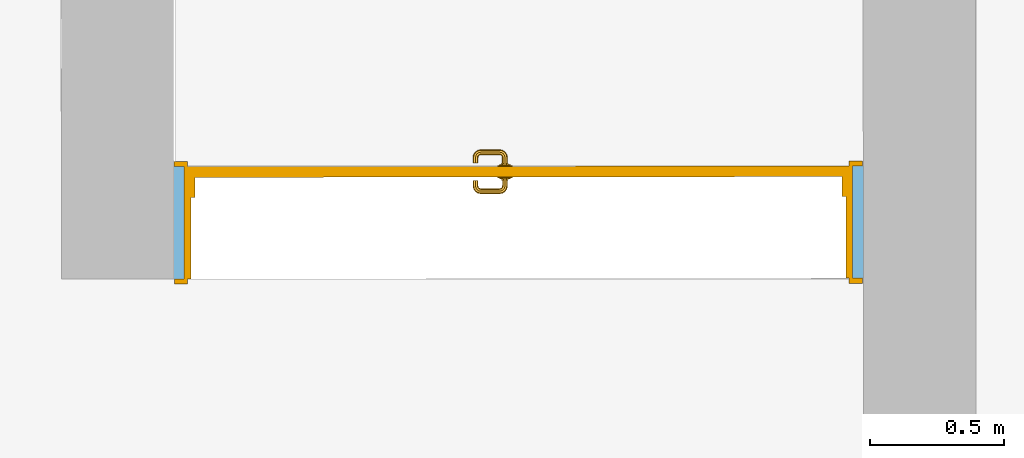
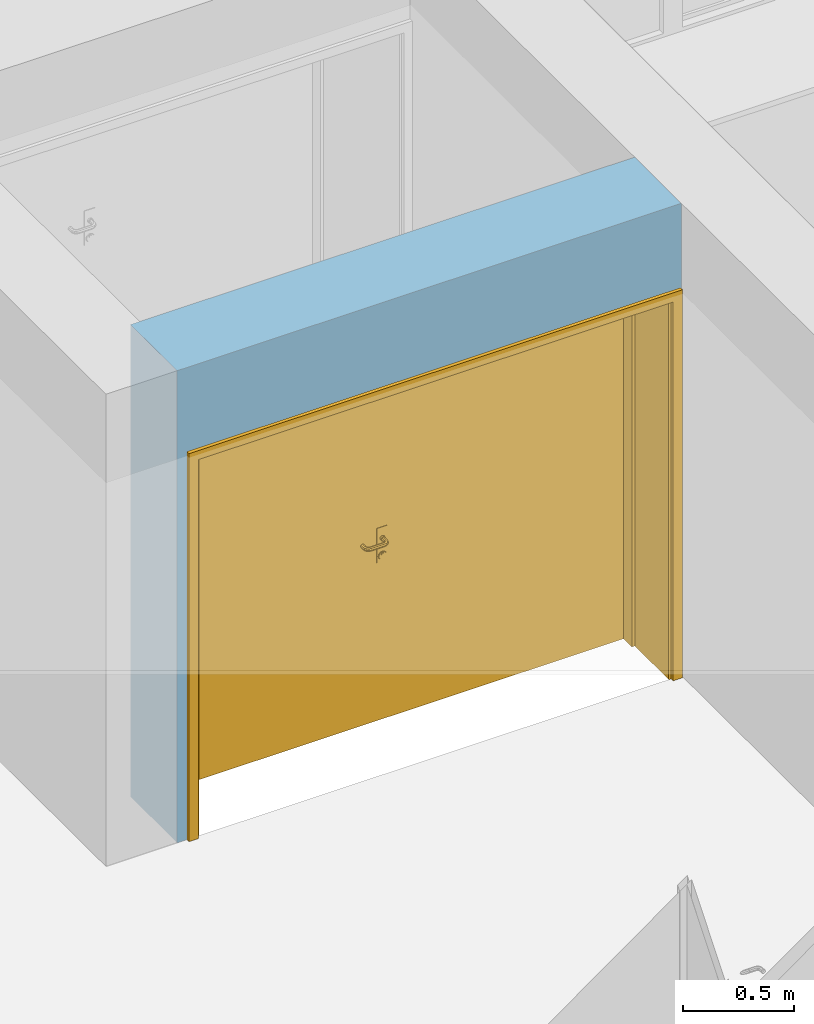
# One storey, part 44 of 127: 1 door, 1 opening, plus 1 element that does not belong to this part.
"""IFC2X3 building model written with IfcOpenShell, lengths in millimetres."""

from ifc_helpers import new_model, entity, si_unit, converted_unit, derived_unit, money_unit, direction, frame, origin_with_axes, origin_2d_with_axis, place, context, subcontext, project, spatial, polyline, rectangle, outline, extrude, open_shell, faceted_brep, surface_model, material, layer, layer_set, layer_usage, type_object, element, fill, save


model = new_model("IFC2X3")

# Units and contexts
model_context = context("Model", 3, precision=1e-05, world=origin_with_axes(), true_north=direction((0.0, 1.0)))
body_context = subcontext(model_context, "Body", "Model", "MODEL_VIEW")
ifc_project = project(units=[si_unit("LENGTHUNIT", "METRE", prefix="MILLI"), si_unit("AREAUNIT", "SQUARE_METRE"), si_unit("VOLUMEUNIT", "CUBIC_METRE"), converted_unit("PLANEANGLEUNIT", "DEGREE", entity("IfcPlaneAngleMeasure", 0.0174532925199), si_unit("PLANEANGLEUNIT", "RADIAN"), dimensions=[0, 0, 0, 0, 0, 0, 0]), si_unit("SOLIDANGLEUNIT", "STERADIAN"), money_unit("EUR"), converted_unit("TIMEUNIT", "Year", entity("IfcTimeMeasure", 31556926.0), si_unit("TIMEUNIT", "SECOND"), dimensions=[0, 0, 1, 0, 0, 0, 0]), si_unit("MASSUNIT", "GRAM", prefix="KILO"), si_unit("THERMODYNAMICTEMPERATUREUNIT", "DEGREE_CELSIUS"), si_unit("LUMINOUSINTENSITYUNIT", "LUMEN"), si_unit("ENERGYUNIT", "JOULE", prefix="MEGA"), derived_unit("THERMALCONDUCTANCEUNIT", [(si_unit("POWERUNIT", "WATT"), 1), (si_unit("LENGTHUNIT", "METRE"), -1), (si_unit("THERMODYNAMICTEMPERATUREUNIT", "KELVIN"), -1)]), derived_unit("SPECIFICHEATCAPACITYUNIT", [(si_unit("ENERGYUNIT", "JOULE"), 1), (si_unit("MASSUNIT", "GRAM", prefix="KILO"), -1), (si_unit("THERMODYNAMICTEMPERATUREUNIT", "KELVIN"), -1)]), derived_unit("MASSDENSITYUNIT", [(si_unit("MASSUNIT", "GRAM", prefix="KILO"), 1), (si_unit("VOLUMEUNIT", "CUBIC_METRE"), -1)])], contexts=[model_context])

# Site, building, storey
site_placement = place(None, origin_with_axes())
site = spatial("IfcSite", under=ifc_project, at=site_placement, Name="Site", CompositionType="ELEMENT")
building_placement = place(site_placement, origin_with_axes())
building = spatial("IfcBuilding", under=site, at=building_placement, Name="Building", CompositionType="ELEMENT")
storey_placement = place(building_placement, origin_with_axes())
storey = spatial("IfcBuildingStorey", under=building, at=storey_placement, Name="1 KORRUS", CompositionType="ELEMENT", Elevation=0.0)

# Wall, opening, door
ifc_material = material(Name="Kivi -Ol.Olev Konstruktsioon")
ifc_layer = layer(ifc_material, 420.0, ventilated="UNKNOWN")
ifc_layer_set = layer_set([ifc_layer], Name="ol.olev ss 420")
ifc_layer_usage = layer_usage(ifc_layer_set, "AXIS2", "POSITIVE", 0.0)
wall_type = type_object("IfcWallType", Name="SW - 036", PredefinedType="NOTDEFINED")
wall_placement = place(storey_placement, frame((40108.3594273, 44172.3026647, 0.0), z_axis=(0.0, 0.0, 1.0), x_axis=(0.99999925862, 0.00121768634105, 0.0)))
wall = element("IfcWallStandardCase", 1, at=wall_placement, inside=storey, type_object=wall_type, material=ifc_layer_usage, Name="ol.olev ss 420", context=body_context, shape_type="SweptSolid", body=[
    extrude(outline(polyline([(0.0, 0.0), (2628.56954198, 9.09494701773e-10), (2628.56954197, 420.0), (0.0, 419.999999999), (0.0, 0.0)])), origin_with_axes(), (0.0, 0.0, 1.0), 2600.0),
])
opening_placement = place(wall_placement, frame((1338.03449445, 9.09494701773e-10, 0.0), z_axis=(0.0, 0.0, 1.0), x_axis=(1.0, 0.0, 0.0)))
opening = element("IfcOpeningElement", 2, at=opening_placement, cuts=wall, Name="Siseuks * Double Door 22", context=body_context, shape_type="SweptSolid", body=[
    extrude(rectangle(XDim=2500.0, YDim=2100.0, at=origin_2d_with_axis()), frame((-1.13686837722e-10, -420.0, 1050.0), z_axis=(0.0, -1.0, 0.0), x_axis=(-1.0, 0.0, 0.0)), (0.0, 0.0, -1.0), 1260.0),
    extrude(rectangle(XDim=2574.0, YDim=2137.0, at=origin_2d_with_axis()), frame((0.0, 0.0, 1068.5), z_axis=(0.0, -1.0, 0.0), x_axis=(-1.0, 0.0, 0.0)), (0.0, 0.0, 1.0), 420.0),
    extrude(rectangle(XDim=2574.0, YDim=2137.0, at=origin_2d_with_axis()), frame((-2.27373675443e-10, 419.999999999, 1068.5), z_axis=(0.0, 1.0, 0.0), x_axis=(-1.0, 0.0, 0.0)), (0.0, 0.0, 1.0), 420.0),
])
door_style = type_object("IfcDoorStyle", Name="SU-B107   2\xa0500×2\xa0100", ConstructionType="NOTDEFINED", OperationType="DOUBLE_DOOR_SINGLE_SWING", ParameterTakesPrecedence=False, Sizeable=False)
door_placement = place(opening_placement, frame((-1250.0, -1.81898940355e-09, 0.0), z_axis=(0.0, 0.0, 1.0), x_axis=(1.0, 0.0, 0.0)))
door = element("IfcDoor", 3, at=door_placement, inside=storey, type_object=door_style, Name="Siseuks * Double Door 22", OverallHeight=2100.0, OverallWidth=2500.0, context=body_context, shape_type="SurfaceModel", body=[
    faceted_brep([(2500.0, 304.999999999, 0.0), (2500.0, 0.0, 0.0), (2475.0, 0.0, 0.0), (2475.0, 304.999999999, 0.0), (2500.0, 304.999999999, 2100.0), (2500.0, 0.0, 2100.0), (2475.0, 0.0, 2075.0), (2475.0, 304.999999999, 2075.0)], [[[0, 1, 2, 3]], [[4, 5, 1, 0]], [[1, 5, 6, 2]], [[3, 2, 6, 7]], [[0, 3, 7, 4]], [[7, 6, 5, 4]]]),
    faceted_brep([(-1.13686837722e-10, 305.0, 2100.0), (0.0, 0.0, 2100.0), (24.9999999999, 0.0, 2075.0), (24.9999999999, 304.999999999, 2075.0), (-1.13686837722e-10, 305.0, 0.0), (0.0, 0.0, 0.0), (24.9999999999, 0.0, 0.0), (24.9999999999, 304.999999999, 0.0)], [[[0, 1, 2, 3]], [[4, 5, 1, 0]], [[1, 5, 6, 2]], [[3, 2, 6, 7]], [[0, 3, 7, 4]], [[7, 6, 5, 4]]]),
    faceted_brep([(2475.0, 304.999999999, 2075.0), (2475.0, 0.0, 2075.0), (24.9999999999, 0.0, 2075.0), (24.9999999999, 304.999999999, 2075.0), (2500.0, 304.999999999, 2100.0), (2500.0, 0.0, 2100.0), (0.0, 0.0, 2100.0), (-1.13686837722e-10, 305.0, 2100.0)], [[[0, 1, 2, 3]], [[4, 5, 1, 0]], [[1, 5, 6, 2]], [[3, 2, 6, 7]], [[0, 3, 7, 4]], [[7, 6, 5, 4]]]),
    faceted_brep([(2537.0, -19.0000000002, 0.0), (2487.0, -18.9999999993, 0.0), (2487.0, 9.09494701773e-10, 0.0), (2537.0, 0.0, 0.0), (2537.0, -19.0000000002, 2137.0), (2487.0, -18.9999999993, 2087.0), (2487.0, 9.09494701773e-10, 2087.0), (2537.0, 0.0, 2137.0)], [[[0, 1, 2, 3]], [[0, 4, 5, 1]], [[1, 5, 6, 2]], [[3, 2, 6, 7]], [[4, 0, 3, 7]], [[5, 4, 7, 6]]]),
    faceted_brep([(-37.0, -19.0000000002, 2137.0), (12.9999999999, -19.0000000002, 2087.0), (12.9999999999, 0.0, 2087.0), (-37.0, 0.0, 2137.0), (-37.0, -19.0000000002, 0.0), (12.9999999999, -19.0000000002, 0.0), (12.9999999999, 0.0, 0.0), (-37.0, 0.0, 0.0)], [[[0, 1, 2, 3]], [[0, 4, 5, 1]], [[1, 5, 6, 2]], [[3, 2, 6, 7]], [[4, 0, 3, 7]], [[5, 4, 7, 6]]]),
    faceted_brep([(2537.0, -19.0000000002, 2137.0), (2487.0, -18.9999999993, 2087.0), (2487.0, 9.09494701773e-10, 2087.0), (2537.0, 0.0, 2137.0), (-37.0, -19.0000000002, 2137.0), (12.9999999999, -19.0000000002, 2087.0), (12.9999999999, 0.0, 2087.0), (-37.0, 0.0, 2137.0)], [[[0, 1, 2, 3]], [[0, 4, 5, 1]], [[1, 5, 6, 2]], [[3, 2, 6, 7]], [[4, 0, 3, 7]], [[5, 4, 7, 6]]]),
    faceted_brep([(2537.0, 439.0, 0.0), (2537.0, 420.0, 0.0), (2487.0, 420.0, 0.0), (2487.0, 439.0, 0.0), (2537.0, 439.0, 2137.0), (2537.0, 420.0, 2137.0), (2487.0, 420.0, 2087.0), (2487.0, 439.0, 2087.0)], [[[0, 1, 2, 3]], [[4, 5, 1, 0]], [[1, 5, 6, 2]], [[3, 2, 6, 7]], [[0, 3, 7, 4]], [[7, 6, 5, 4]]]),
    faceted_brep([(-37.0, 439.0, 2137.0), (-37.0, 420.000000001, 2137.0), (12.9999999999, 420.0, 2087.0), (12.9999999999, 439.0, 2087.0), (-37.0, 439.0, 0.0), (-37.0, 420.000000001, 0.0), (12.9999999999, 420.0, 0.0), (12.9999999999, 439.0, 0.0)], [[[0, 1, 2, 3]], [[4, 5, 1, 0]], [[1, 5, 6, 2]], [[3, 2, 6, 7]], [[0, 3, 7, 4]], [[7, 6, 5, 4]]]),
    faceted_brep([(2537.0, 439.0, 2137.0), (2537.0, 420.0, 2137.0), (2487.0, 420.0, 2087.0), (2487.0, 439.0, 2087.0), (-37.0, 439.0, 2137.0), (-37.0, 420.000000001, 2137.0), (12.9999999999, 420.0, 2087.0), (12.9999999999, 439.0, 2087.0)], [[[0, 1, 2, 3]], [[4, 5, 1, 0]], [[1, 5, 6, 2]], [[3, 2, 6, 7]], [[0, 3, 7, 4]], [[7, 6, 5, 4]]]),
    faceted_brep([(2460.0, 379.999999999, 0.0), (2460.0, 305.0, 0.0), (2460.0, 305.0, 2060.0), (2460.0, 379.999999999, 2060.0), (2472.0, 380.000000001, 0.0), (2472.0, 420.0, 0.0), (2500.0, 420.000000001, 0.0), (2500.0, 304.999999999, 0.0), (2500.0, 304.999999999, 2060.0), (2472.0, 380.000000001, 2060.0), (2500.0, 420.000000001, 2060.0), (2472.0, 420.0, 2060.0)], [[[0, 1, 2, 3]], [[4, 5, 6, 7, 1, 0]], [[1, 7, 8, 2]], [[9, 3, 2, 8, 10, 11]], [[9, 4, 0, 3]], [[11, 5, 4, 9]], [[11, 10, 6, 5]], [[6, 10, 8, 7]]]),
    faceted_brep([(27.9999999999, 380.0, 2060.0), (27.9999999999, 419.999999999, 2060.0), (-1.13686837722e-10, 420.0, 2060.0), (-1.13686837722e-10, 305.0, 2060.0), (40.0, 305.0, 2060.0), (40.0, 380.0, 2060.0), (27.9999999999, 380.0, 0.0), (27.9999999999, 419.999999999, 0.0), (-1.13686837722e-10, 420.0, 0.0), (-1.13686837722e-10, 305.0, 0.0), (40.0, 305.0, 0.0), (40.0, 380.0, 0.0)], [[[0, 1, 2, 3, 4, 5]], [[0, 6, 7, 1]], [[7, 8, 2, 1]], [[2, 8, 9, 3]], [[3, 9, 10, 4]], [[5, 4, 10, 11]], [[5, 11, 6, 0]], [[6, 11, 10, 9, 8, 7]]]),
    faceted_brep([(2472.0, 420.0, 2072.0), (27.9999999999, 419.999999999, 2072.0), (27.9999999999, 419.999999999, 2060.0), (-1.13686837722e-10, 420.0, 2060.0), (-1.13686837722e-10, 420.0, 2100.0), (2500.0, 420.000000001, 2100.0), (2500.0, 420.000000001, 2060.0), (2472.0, 420.0, 2060.0), (2472.0, 380.000000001, 2072.0), (27.9999999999, 380.0, 2072.0), (27.9999999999, 380.0, 2060.0), (40.0, 380.0, 2060.0), (40.0, 305.0, 2060.0), (-1.13686837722e-10, 305.0, 2060.0), (-1.13686837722e-10, 305.0, 2100.0), (2500.0, 304.999999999, 2100.0), (2500.0, 304.999999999, 2060.0), (2472.0, 380.000000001, 2060.0), (2460.0, 305.0, 2060.0), (2460.0, 379.999999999, 2060.0)], [[[0, 1, 2, 3, 4, 5, 6, 7]], [[0, 8, 9, 1]], [[1, 9, 10, 2]], [[10, 11, 12, 13, 3, 2]], [[4, 3, 13, 14]], [[5, 4, 14, 15]], [[6, 5, 15, 16]], [[17, 7, 6, 16, 18, 19]], [[7, 17, 8, 0]], [[10, 9, 8, 17, 19, 11]], [[19, 18, 12, 11]], [[12, 18, 16, 15, 14, 13]]]),
    faceted_brep([(1228.5, 380.0, 1060.0), (1171.5, 379.999999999, 1060.0), (1171.5, 377.0, 1060.0), (1228.5, 376.999999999, 1060.0), (1228.5, 380.0, 870.0), (1171.5, 379.999999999, 870.0), (1171.5, 377.0, 870.0), (1228.5, 376.999999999, 870.0)], [[[0, 1, 2, 3]], [[0, 4, 5, 1]], [[1, 5, 6, 2]], [[3, 2, 6, 7]], [[4, 0, 3, 7]], [[5, 4, 7, 6]]]),
    surface_model("IfcShellBasedSurfaceModel", [(1190.0, 367.0, 1000.0), (1192.92893219, 367.0, 992.928932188), (1192.92893219, 347.696439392, 992.928932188), (1190.0, 347.984914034, 1000.0), (1200.0, 367.0, 990.0), (1200.0, 347.0, 990.0), (1191.81679042, 342.105325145, 992.928932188), (1189.05779662, 343.248137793, 1000.0), (1192.92893219, 367.0, 1007.07106781), (1192.92893219, 347.696439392, 1007.07106781), (1207.07106781, 367.0, 992.928932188), (1207.07106781, 346.303560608, 992.928932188), (1198.47759065, 339.346331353, 990.0), (1189.04417983, 337.955820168, 992.928932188), (1186.9325374, 340.067462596, 1000.0), (1191.81679042, 342.105325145, 1007.07106781), (1200.0, 367.0, 1010.0), (1200.0, 347.0, 1010.0), (1210.0, 367.0, 1000.0), (1210.0, 346.015085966, 1000.0), (1205.13839088, 336.587337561, 992.928932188), (1194.14213562, 332.857864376, 990.0), (1184.89467485, 335.183209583, 992.928932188), (1183.75186221, 337.942203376, 1000.0), (1189.04417983, 337.955820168, 1007.07106781), (1198.47759065, 339.346331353, 1010.0), (1207.07106781, 367.0, 1007.07106781), (1207.07106781, 346.303560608, 1007.07106781), (1207.89738468, 335.444524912, 1000.0), (1199.24009141, 327.759908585, 992.928932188), (1187.65366865, 328.52240935, 990.0), (1179.30356061, 334.071067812, 992.928932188), (1179.01508597, 337.0, 1000.0), (1184.89467485, 335.183209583, 1007.07106781), (1194.14213562, 332.857864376, 1010.0), (1205.13839088, 336.587337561, 1007.07106781), (1201.35173384, 325.648266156, 1000.0), (1190.41266244, 321.861609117, 992.928932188), (1180.0, 327.0, 990.0), (1110.69643939, 334.071067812, 992.928932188), (1110.98491403, 337.0, 1000.0), (1179.30356061, 334.071067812, 1007.07106781), (1187.65366865, 328.52240935, 1010.0), (1199.24009141, 327.759908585, 1007.07106781), (1191.55547509, 319.102615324, 1000.0), (1180.69643939, 319.928932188, 992.928932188), (1110.0, 327.000000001, 990.0), (1105.10532515, 335.183209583, 992.928932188), (1106.24813779, 337.942203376, 1000.0), (1110.69643939, 334.071067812, 1007.07106781), (1180.0, 327.0, 1010.0), (1190.41266244, 321.861609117, 1007.07106781), (1180.98491403, 317.0, 1000.0), (1109.30356061, 319.928932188, 992.928932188), (1102.34633135, 328.52240935, 990.0), (1100.95582017, 337.955820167, 992.928932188), (1103.0674626, 340.067462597, 1000.0), (1105.10532515, 335.183209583, 1007.07106781), (1110.0, 327.000000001, 1010.0), (1180.69643939, 319.928932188, 1007.07106781), (1109.01508597, 317.0, 1000.0), (1099.58733756, 321.861609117, 992.928932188), (1095.85786438, 332.857864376, 990.0), (1098.18320958, 342.105325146, 992.928932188), (1100.94220338, 343.248137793, 1000.0), (1100.95582017, 337.955820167, 1007.07106781), (1102.34633135, 328.52240935, 1010.0), (1109.30356061, 319.928932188, 1007.07106781), (1098.44452491, 319.102615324, 1000.0), (1090.75990859, 327.759908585, 992.928932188), (1091.52240935, 339.346331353, 990.0), (1097.07106781, 347.696439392, 992.928932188), (1100.0, 347.984914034, 1000.0), (1098.18320958, 342.105325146, 1007.07106781), (1095.85786438, 332.857864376, 1010.0), (1099.58733756, 321.861609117, 1007.07106781), (1088.64826616, 325.648266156, 1000.0), (1084.86160912, 336.58733756, 992.928932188), (1090.0, 347.0, 990.0), (1097.07106781, 367.0, 992.928932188), (1100.0, 367.0, 1000.0), (1097.07106781, 347.696439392, 1007.07106781), (1091.52240935, 339.346331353, 1010.0), (1090.75990859, 327.759908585, 1007.07106781), (1082.10261532, 335.444524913, 1000.0), (1082.92893219, 346.303560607, 992.928932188), (1090.0, 367.0, 990.0), (1082.92893219, 367.0, 992.928932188), (1080.0, 367.0, 1000.0), (1082.92893219, 367.0, 1007.07106781), (1090.0, 367.0, 1010.0), (1097.07106781, 367.0, 1007.07106781), (1090.0, 347.0, 1010.0), (1084.86160912, 336.58733756, 1007.07106781), (1080.0, 346.015085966, 1000.0), (1082.92893219, 346.303560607, 1007.07106781)], [open_shell([[[0, 1, 2, 3]], [[1, 4, 5, 2]], [[3, 2, 6, 7]], [[8, 0, 3, 9]], [[4, 10, 11, 5]], [[2, 5, 12, 6]], [[7, 6, 13, 14]], [[9, 3, 7, 15]], [[16, 8, 9, 17]], [[10, 18, 19, 11]], [[5, 11, 20, 12]], [[6, 12, 21, 13]], [[14, 13, 22, 23]], [[15, 7, 14, 24]], [[17, 9, 15, 25]], [[26, 16, 17, 27]], [[18, 26, 27, 19]], [[11, 19, 28, 20]], [[12, 20, 29, 21]], [[13, 21, 30, 22]], [[23, 22, 31, 32]], [[24, 14, 23, 33]], [[25, 15, 24, 34]], [[27, 17, 25, 35]], [[19, 27, 35, 28]], [[20, 28, 36, 29]], [[21, 29, 37, 30]], [[22, 30, 38, 31]], [[32, 31, 39, 40]], [[33, 23, 32, 41]], [[34, 24, 33, 42]], [[35, 25, 34, 43]], [[28, 35, 43, 36]], [[29, 36, 44, 37]], [[30, 37, 45, 38]], [[31, 38, 46, 39]], [[40, 39, 47, 48]], [[41, 32, 40, 49]], [[42, 33, 41, 50]], [[43, 34, 42, 51]], [[36, 43, 51, 44]], [[37, 44, 52, 45]], [[38, 45, 53, 46]], [[39, 46, 54, 47]], [[48, 47, 55, 56]], [[49, 40, 48, 57]], [[50, 41, 49, 58]], [[51, 42, 50, 59]], [[44, 51, 59, 52]], [[45, 52, 60, 53]], [[46, 53, 61, 54]], [[47, 54, 62, 55]], [[56, 55, 63, 64]], [[57, 48, 56, 65]], [[58, 49, 57, 66]], [[59, 50, 58, 67]], [[52, 59, 67, 60]], [[53, 60, 68, 61]], [[54, 61, 69, 62]], [[55, 62, 70, 63]], [[64, 63, 71, 72]], [[65, 56, 64, 73]], [[66, 57, 65, 74]], [[67, 58, 66, 75]], [[60, 67, 75, 68]], [[61, 68, 76, 69]], [[62, 69, 77, 70]], [[63, 70, 78, 71]], [[72, 71, 79, 80]], [[73, 64, 72, 81]], [[74, 65, 73, 82]], [[75, 66, 74, 83]], [[68, 75, 83, 76]], [[69, 76, 84, 77]], [[70, 77, 85, 78]], [[71, 78, 86, 79]], [[80, 79, 86, 87, 88, 89, 90, 91]], [[81, 72, 80, 91]], [[82, 73, 81, 92]], [[83, 74, 82, 93]], [[76, 83, 93, 84]], [[77, 84, 94, 85]], [[78, 85, 87, 86]], [[85, 94, 88, 87]], [[94, 95, 89, 88]], [[95, 92, 90, 89]], [[92, 81, 91, 90]], [[93, 82, 92, 95]], [[84, 93, 95, 94]]])]),
    faceted_brep([(1189.60769515, 366.999999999, 994.0), (1188.0, 367.0, 1000.0), (1187.0, 376.999999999, 1000.0), (1188.74166975, 376.999999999, 993.5), (1194.0, 367.0, 989.607695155), (1200.0, 367.0, 988.0), (1206.0, 366.999999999, 989.607695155), (1210.39230485, 367.0, 994.0), (1212.0, 367.0, 1000.0), (1210.39230485, 367.0, 1006.0), (1206.0, 366.999999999, 1010.39230485), (1200.0, 367.0, 1012.0), (1194.0, 367.0, 1010.39230485), (1189.60769515, 366.999999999, 1006.0), (1188.74166975, 376.999999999, 1006.5), (1193.5, 377.0, 1011.25833025), (1200.0, 377.0, 1013.0), (1206.5, 377.0, 1011.25833025), (1211.25833025, 376.999999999, 1006.5), (1213.0, 377.0, 1000.0), (1211.25833025, 376.999999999, 993.5), (1206.5, 377.0, 988.741669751), (1200.0, 377.0, 987.0), (1193.5, 377.0, 988.741669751)], [[[0, 1, 2, 3]], [[1, 0, 4, 5, 6, 7, 8, 9, 10, 11, 12, 13]], [[1, 13, 14, 2]], [[2, 14, 15, 16, 17, 18, 19, 20, 21, 22, 23, 3]], [[4, 0, 3, 23]], [[5, 4, 23, 22]], [[6, 5, 22, 21]], [[7, 6, 21, 20]], [[8, 7, 20, 19]], [[9, 8, 19, 18]], [[10, 9, 18, 17]], [[11, 10, 17, 16]], [[12, 11, 16, 15]], [[13, 12, 15, 14]]]),
    faceted_brep([(1182.67949192, 373.0, 895.0), (1180.0, 373.000000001, 905.0), (1178.0, 376.999999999, 905.0), (1180.94744112, 376.999999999, 894.0), (1190.0, 373.0, 887.679491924), (1200.0, 373.0, 885.0), (1210.0, 373.0, 887.679491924), (1217.32050808, 373.000000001, 895.0), (1220.0, 373.0, 905.0), (1217.32050808, 373.000000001, 915.0), (1210.0, 373.0, 922.320508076), (1200.0, 373.0, 925.0), (1190.0, 373.0, 922.320508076), (1182.67949192, 373.0, 915.0), (1180.94744112, 376.999999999, 916.0), (1189.0, 377.000000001, 924.052558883), (1200.0, 377.0, 927.0), (1211.0, 377.0, 924.052558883), (1219.05255888, 377.0, 916.0), (1222.0, 377.0, 905.0), (1219.05255888, 377.0, 894.0), (1211.0, 377.0, 885.947441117), (1200.0, 377.0, 883.0), (1189.0, 377.000000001, 885.947441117)], [[[0, 1, 2, 3]], [[1, 0, 4, 5, 6, 7, 8, 9, 10, 11, 12, 13]], [[1, 13, 14, 2]], [[2, 14, 15, 16, 17, 18, 19, 20, 21, 22, 23, 3]], [[4, 0, 3, 23]], [[5, 4, 23, 22]], [[6, 5, 22, 21]], [[7, 6, 21, 20]], [[8, 7, 20, 19]], [[9, 8, 19, 18]], [[10, 9, 18, 17]], [[11, 10, 17, 16]], [[12, 11, 16, 15]], [[13, 12, 15, 14]]]),
    faceted_brep([(1195.05025253, 371.0, 909.050252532), (1193.0, 370.999999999, 914.0), (1192.0, 373.0, 914.0), (1194.34314575, 373.000000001, 908.343145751), (1200.0, 371.0, 907.0), (1204.94974747, 371.0, 909.050252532), (1207.0, 371.0, 914.0), (1204.94974747, 371.0, 918.949747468), (1200.0, 371.0, 921.0), (1195.05025253, 371.0, 918.949747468), (1194.34314575, 373.000000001, 919.656854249), (1200.0, 373.0, 922.0), (1205.65685425, 373.000000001, 919.656854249), (1208.0, 373.000000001, 914.0), (1205.65685425, 373.000000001, 908.343145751), (1200.0, 373.0, 906.0)], [[[0, 1, 2, 3]], [[1, 0, 4, 5, 6, 7, 8, 9]], [[1, 9, 10, 2]], [[2, 10, 11, 12, 13, 14, 15, 3]], [[4, 0, 3, 15]], [[5, 4, 15, 14]], [[6, 5, 14, 13]], [[7, 6, 13, 12]], [[8, 7, 12, 11]], [[9, 8, 11, 10]]]),
    faceted_brep([(1228.5, 420.000000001, 1060.0), (1228.5, 423.000000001, 1060.0), (1171.5, 423.000000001, 1060.0), (1171.5, 420.0, 1060.0), (1228.5, 420.000000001, 870.0), (1228.5, 423.000000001, 870.0), (1171.5, 423.000000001, 870.0), (1171.5, 420.0, 870.0)], [[[0, 1, 2, 3]], [[4, 5, 1, 0]], [[1, 5, 6, 2]], [[3, 2, 6, 7]], [[0, 3, 7, 4]], [[7, 6, 5, 4]]]),
    surface_model("IfcShellBasedSurfaceModel", [(1190.0, 433.000000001, 1000.0), (1190.0, 452.015085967, 1000.0), (1192.92893219, 452.303560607, 992.928932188), (1192.92893219, 433.000000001, 992.928932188), (1192.92893219, 433.000000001, 1007.07106781), (1192.92893219, 452.303560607, 1007.07106781), (1189.05779662, 456.751862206, 1000.0), (1191.81679042, 457.894674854, 992.928932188), (1200.0, 453.0, 990.0), (1200.0, 433.000000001, 990.0), (1200.0, 433.000000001, 1010.0), (1200.0, 453.0, 1010.0), (1191.81679042, 457.894674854, 1007.07106781), (1186.9325374, 459.932537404, 1000.0), (1189.04417983, 462.044179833, 992.928932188), (1198.47759065, 460.653668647, 990.0), (1207.07106781, 453.696439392, 992.928932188), (1207.07106781, 433.0, 992.928932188), (1207.07106781, 433.0, 1007.07106781), (1207.07106781, 453.696439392, 1007.07106781), (1198.47759065, 460.653668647, 1010.0), (1189.04417983, 462.044179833, 1007.07106781), (1183.75186221, 462.057796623, 1000.0), (1184.89467485, 464.816790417, 992.928932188), (1194.14213562, 467.142135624, 990.0), (1205.13839088, 463.412662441, 992.928932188), (1210.0, 453.984914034, 1000.0), (1210.0, 433.0, 1000.0), (1205.13839088, 463.412662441, 1007.07106781), (1194.14213562, 467.142135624, 1010.0), (1184.89467485, 464.816790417, 1007.07106781), (1179.01508597, 463.0, 1000.0), (1179.30356061, 465.928932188, 992.928932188), (1187.65366865, 471.47759065, 990.0), (1199.24009141, 472.240091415, 992.928932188), (1207.89738468, 464.555475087, 1000.0), (1199.24009141, 472.240091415, 1007.07106781), (1187.65366865, 471.47759065, 1010.0), (1179.30356061, 465.928932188, 1007.07106781), (1110.98491403, 463.000000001, 1000.0), (1110.69643939, 465.928932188, 992.928932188), (1180.0, 472.999999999, 990.0), (1190.41266244, 478.138390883, 992.928932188), (1201.35173384, 474.351733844, 1000.0), (1190.41266244, 478.138390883, 1007.07106781), (1180.0, 472.999999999, 1010.0), (1110.69643939, 465.928932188, 1007.07106781), (1106.24813779, 462.057796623, 1000.0), (1105.10532515, 464.816790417, 992.928932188), (1110.0, 473.0, 990.0), (1180.69643939, 480.071067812, 992.928932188), (1191.55547509, 480.897384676, 1000.0), (1180.69643939, 480.071067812, 1007.07106781), (1110.0, 473.0, 1010.0), (1105.10532515, 464.816790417, 1007.07106781), (1103.0674626, 459.932537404, 1000.0), (1100.95582017, 462.044179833, 992.928932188), (1102.34633135, 471.47759065, 990.0), (1109.30356061, 480.071067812, 992.928932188), (1180.98491403, 483.0, 1000.0), (1109.30356061, 480.071067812, 1007.07106781), (1102.34633135, 471.47759065, 1010.0), (1100.95582017, 462.044179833, 1007.07106781), (1100.94220338, 456.751862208, 1000.0), (1098.18320958, 457.894674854, 992.928932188), (1095.85786438, 467.142135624, 990.0), (1099.58733756, 478.138390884, 992.928932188), (1109.01508597, 482.999999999, 1000.0), (1099.58733756, 478.138390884, 1007.07106781), (1095.85786438, 467.142135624, 1010.0), (1098.18320958, 457.894674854, 1007.07106781), (1100.0, 452.015085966, 1000.0), (1097.07106781, 452.303560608, 992.928932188), (1091.52240935, 460.653668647, 990.0), (1090.75990859, 472.240091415, 992.928932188), (1098.44452491, 480.897384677, 1000.0), (1090.75990859, 472.240091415, 1007.07106781), (1091.52240935, 460.653668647, 1010.0), (1097.07106781, 452.303560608, 1007.07106781), (1100.0, 433.0, 1000.0), (1097.07106781, 433.0, 992.928932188), (1090.0, 453.0, 990.0), (1084.86160912, 463.41266244, 992.928932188), (1088.64826616, 474.351733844, 1000.0), (1084.86160912, 463.41266244, 1007.07106781), (1090.0, 453.0, 1010.0), (1097.07106781, 433.0, 1007.07106781), (1090.0, 433.000000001, 1010.0), (1082.92893219, 433.0, 1007.07106781), (1080.0, 433.000000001, 1000.0), (1082.92893219, 433.0, 992.928932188), (1090.0, 433.000000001, 990.0), (1082.92893219, 453.696439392, 992.928932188), (1082.10261532, 464.555475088, 1000.0), (1082.92893219, 453.696439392, 1007.07106781), (1080.0, 453.984914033, 1000.0)], [open_shell([[[0, 1, 2, 3]], [[4, 5, 1, 0]], [[1, 6, 7, 2]], [[3, 2, 8, 9]], [[10, 11, 5, 4]], [[5, 12, 6, 1]], [[6, 13, 14, 7]], [[2, 7, 15, 8]], [[9, 8, 16, 17]], [[18, 19, 11, 10]], [[11, 20, 12, 5]], [[12, 21, 13, 6]], [[13, 22, 23, 14]], [[7, 14, 24, 15]], [[8, 15, 25, 16]], [[17, 16, 26, 27]], [[27, 26, 19, 18]], [[19, 28, 20, 11]], [[20, 29, 21, 12]], [[21, 30, 22, 13]], [[22, 31, 32, 23]], [[14, 23, 33, 24]], [[15, 24, 34, 25]], [[16, 25, 35, 26]], [[26, 35, 28, 19]], [[28, 36, 29, 20]], [[29, 37, 30, 21]], [[30, 38, 31, 22]], [[31, 39, 40, 32]], [[23, 32, 41, 33]], [[24, 33, 42, 34]], [[25, 34, 43, 35]], [[35, 43, 36, 28]], [[36, 44, 37, 29]], [[37, 45, 38, 30]], [[38, 46, 39, 31]], [[39, 47, 48, 40]], [[32, 40, 49, 41]], [[33, 41, 50, 42]], [[34, 42, 51, 43]], [[43, 51, 44, 36]], [[44, 52, 45, 37]], [[45, 53, 46, 38]], [[46, 54, 47, 39]], [[47, 55, 56, 48]], [[40, 48, 57, 49]], [[41, 49, 58, 50]], [[42, 50, 59, 51]], [[51, 59, 52, 44]], [[52, 60, 53, 45]], [[53, 61, 54, 46]], [[54, 62, 55, 47]], [[55, 63, 64, 56]], [[48, 56, 65, 57]], [[49, 57, 66, 58]], [[50, 58, 67, 59]], [[59, 67, 60, 52]], [[60, 68, 61, 53]], [[61, 69, 62, 54]], [[62, 70, 63, 55]], [[63, 71, 72, 64]], [[56, 64, 73, 65]], [[57, 65, 74, 66]], [[58, 66, 75, 67]], [[67, 75, 68, 60]], [[68, 76, 69, 61]], [[69, 77, 70, 62]], [[70, 78, 71, 63]], [[71, 79, 80, 72]], [[64, 72, 81, 73]], [[65, 73, 82, 74]], [[66, 74, 83, 75]], [[75, 83, 76, 68]], [[76, 84, 77, 69]], [[77, 85, 78, 70]], [[78, 86, 79, 71]], [[79, 86, 87, 88, 89, 90, 91, 80]], [[72, 80, 91, 81]], [[73, 81, 92, 82]], [[74, 82, 93, 83]], [[83, 93, 84, 76]], [[84, 94, 85, 77]], [[85, 87, 86, 78]], [[94, 88, 87, 85]], [[95, 89, 88, 94]], [[92, 90, 89, 95]], [[81, 91, 90, 92]], [[82, 92, 95, 93]], [[93, 95, 94, 84]]])]),
    faceted_brep([(1189.60769515, 433.0, 994.0), (1188.74166975, 423.000000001, 993.5), (1187.0, 423.0, 1000.0), (1188.0, 433.0, 1000.0), (1194.0, 433.000000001, 989.607695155), (1193.5, 423.0, 988.741669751), (1200.0, 423.0, 987.0), (1206.5, 423.0, 988.741669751), (1211.25833025, 423.0, 993.5), (1213.0, 423.000000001, 1000.0), (1211.25833025, 423.0, 1006.5), (1206.5, 423.0, 1011.25833025), (1200.0, 423.0, 1013.0), (1193.5, 423.0, 1011.25833025), (1188.74166975, 423.000000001, 1006.5), (1189.60769515, 433.0, 1006.0), (1194.0, 433.000000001, 1010.39230485), (1200.0, 433.000000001, 1012.0), (1206.0, 433.0, 1010.39230485), (1210.39230485, 433.000000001, 1006.0), (1212.0, 433.0, 1000.0), (1210.39230485, 433.000000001, 994.0), (1206.0, 433.0, 989.607695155), (1200.0, 433.000000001, 988.0)], [[[0, 1, 2, 3]], [[4, 5, 1, 0]], [[2, 1, 5, 6, 7, 8, 9, 10, 11, 12, 13, 14]], [[3, 2, 14, 15]], [[3, 15, 16, 17, 18, 19, 20, 21, 22, 23, 4, 0]], [[23, 6, 5, 4]], [[22, 7, 6, 23]], [[21, 8, 7, 22]], [[20, 9, 8, 21]], [[19, 10, 9, 20]], [[18, 11, 10, 19]], [[17, 12, 11, 18]], [[16, 13, 12, 17]], [[15, 14, 13, 16]]]),
    faceted_brep([(1182.67949192, 427.0, 895.0), (1180.94744112, 423.0, 894.0), (1178.0, 423.0, 905.0), (1180.0, 427.000000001, 905.0), (1190.0, 427.000000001, 887.679491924), (1189.0, 423.0, 885.947441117), (1200.0, 423.0, 883.0), (1211.0, 423.000000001, 885.947441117), (1219.05255888, 423.000000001, 894.0), (1222.0, 423.000000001, 905.0), (1219.05255888, 423.000000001, 916.0), (1211.0, 423.000000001, 924.052558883), (1200.0, 423.0, 927.0), (1189.0, 423.0, 924.052558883), (1180.94744112, 423.0, 916.0), (1182.67949192, 427.0, 915.0), (1190.0, 427.000000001, 922.320508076), (1200.0, 427.000000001, 925.0), (1210.0, 427.000000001, 922.320508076), (1217.32050808, 427.000000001, 915.0), (1220.0, 427.000000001, 905.0), (1217.32050808, 427.000000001, 895.0), (1210.0, 427.000000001, 887.679491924), (1200.0, 427.000000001, 885.0)], [[[0, 1, 2, 3]], [[4, 5, 1, 0]], [[2, 1, 5, 6, 7, 8, 9, 10, 11, 12, 13, 14]], [[3, 2, 14, 15]], [[3, 15, 16, 17, 18, 19, 20, 21, 22, 23, 4, 0]], [[23, 6, 5, 4]], [[22, 7, 6, 23]], [[21, 8, 7, 22]], [[20, 9, 8, 21]], [[19, 10, 9, 20]], [[18, 11, 10, 19]], [[17, 12, 11, 18]], [[16, 13, 12, 17]], [[15, 14, 13, 16]]]),
    faceted_brep([(1195.05025253, 429.0, 909.050252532), (1194.34314575, 427.0, 908.343145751), (1192.0, 427.0, 914.0), (1193.0, 429.0, 914.0), (1200.0, 428.999999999, 907.0), (1200.0, 427.000000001, 906.0), (1205.65685425, 427.0, 908.343145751), (1208.0, 427.0, 914.0), (1205.65685425, 427.0, 919.656854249), (1200.0, 427.000000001, 922.0), (1194.34314575, 427.0, 919.656854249), (1195.05025253, 429.0, 918.949747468), (1200.0, 428.999999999, 921.0), (1204.94974747, 429.0, 918.949747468), (1207.0, 429.0, 914.0), (1204.94974747, 429.0, 909.050252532)], [[[0, 1, 2, 3]], [[4, 5, 1, 0]], [[2, 1, 5, 6, 7, 8, 9, 10]], [[3, 2, 10, 11]], [[3, 11, 12, 13, 14, 15, 4, 0]], [[15, 6, 5, 4]], [[14, 7, 6, 15]], [[13, 8, 7, 14]], [[12, 9, 8, 13]], [[11, 10, 9, 12]]]),
    faceted_brep([(27.9999999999, 419.999999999, 0.0), (1250.0, 420.0, 0.0), (1250.0, 379.999999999, 0.0), (27.9999999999, 380.0, 0.0), (27.9999999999, 419.999999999, 2072.0), (1250.0, 420.0, 2072.0), (1250.0, 379.999999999, 2072.0), (27.9999999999, 380.0, 2072.0)], [[[0, 1, 2, 3]], [[0, 4, 5, 1]], [[1, 5, 6, 2]], [[3, 2, 6, 7]], [[4, 0, 3, 7]], [[5, 4, 7, 6]]]),
    faceted_brep([(2472.0, 420.0, 0.0), (2472.0, 380.000000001, 0.0), (1250.0, 379.999999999, 0.0), (1250.0, 420.0, 0.0), (2472.0, 420.0, 2072.0), (2472.0, 380.000000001, 2072.0), (1250.0, 379.999999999, 2072.0), (1250.0, 420.0, 2072.0)], [[[0, 1, 2, 3]], [[4, 5, 1, 0]], [[1, 5, 6, 2]], [[3, 2, 6, 7]], [[0, 3, 7, 4]], [[7, 6, 5, 4]]]),
])
fill(opening, door)

save(model, "model.ifc")
